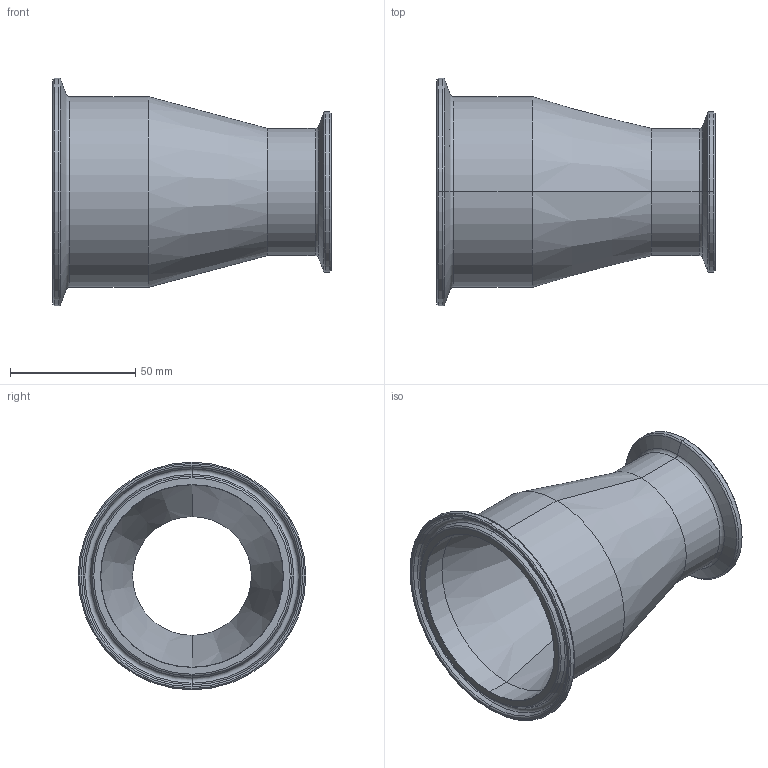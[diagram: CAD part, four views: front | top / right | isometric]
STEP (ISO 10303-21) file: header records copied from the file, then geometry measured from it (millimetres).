
FILE_DESCRIPTION (( 'STEP AP214' ), '1' );
FILE_NAME ('TEG31SCC6I3.0x2.0.STEP', '2016-05-29T14:44:19', ( 'eran' ), ( '' ), 'SwSTEP 2.0', 'SolidWorks 2016', '' );
FILE_SCHEMA (( 'AUTOMOTIVE_DESIGN' ));
Length unit declared in the file: millimetre
Products named in the file (1): TEG31SCC6I3.0x2.0
Bounding box: 111.13 x 91 x 91 mm (x, y, z)
Volume: 116865.6 mm3; surface area: 49841.7 mm2
Topology: 1 solids, 1 shells, 60 faces, 120 edges, 64 vertices
Faces by surface type: cone 24, torus 20, cylinder 12, plane 4
Entity records: 1582 total; most frequent: DIRECTION 326, CARTESIAN_POINT 245, ORIENTED_EDGE 240, AXIS2_PLACEMENT_3D 145, EDGE_CURVE 120, CIRCLE 84, VERTEX_POINT 64, EDGE_LOOP 64
